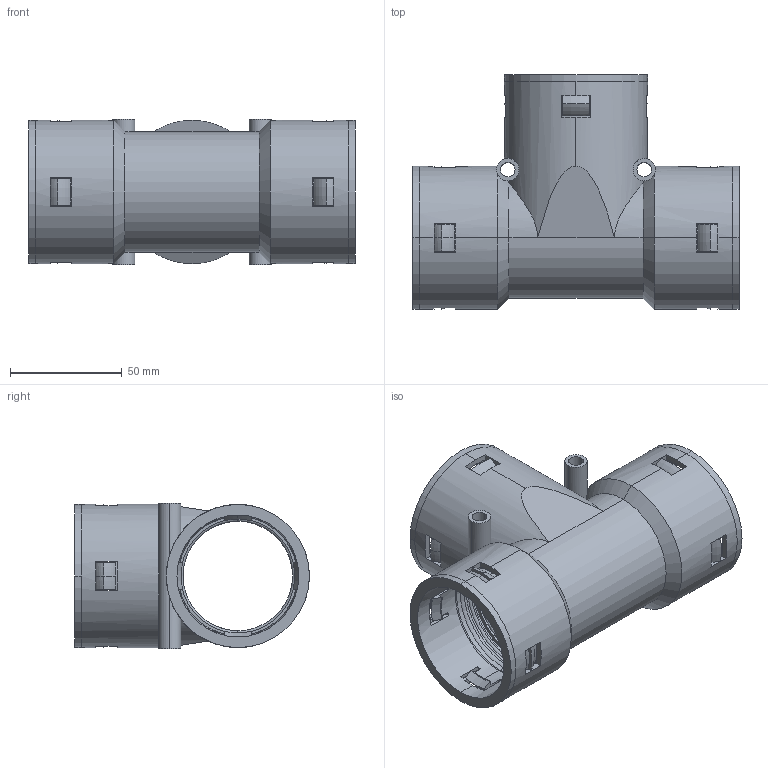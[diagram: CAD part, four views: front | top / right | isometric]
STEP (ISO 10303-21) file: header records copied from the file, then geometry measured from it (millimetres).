
FILE_DESCRIPTION (( 'STEP AP203' ), '1' );
FILE_NAME ('WQT-PA AD54.5-2X54.5.STEP', '2016-03-24T09:03:48', ( '' ), ( '' ), 'SwSTEP 2.0', 'SolidWorks 2010', '' );
FILE_SCHEMA (( 'CONFIG_CONTROL_DESIGN' ));
Length unit declared in the file: millimetre
Products named in the file (4): NSK-AD54.5; GFD-AD54.5; WQT-PA AD54.5-2X54.5-01; WQT-PA AD54.5-2X54.5
Assembly tree (7 placements, depth 2):
  WQT-PA AD54.5-2X54.5
    NSK-AD54.5  x3
    GFD-AD54.5  x3
    WQT-PA AD54.5-2X54.5-01
Bounding box: 146 x 105 x 65 mm (x, y, z)
Volume: 142917.5 mm3; surface area: 120827.9 mm2
Topology: 7 solids, 7 shells, 491 faces, 1286 edges, 793 vertices
Faces by surface type: plane 198, cone 141, cylinder 80, torus 72
Entity records: 8871 total; most frequent: CARTESIAN_POINT 2096, DIRECTION 1385, ORIENTED_EDGE 1308, EDGE_CURVE 654, AXIS2_PLACEMENT_3D 558, VERTEX_POINT 407, CIRCLE 307, EDGE_LOOP 273
